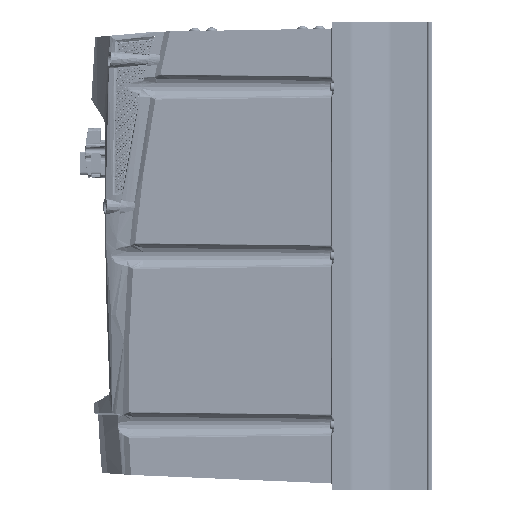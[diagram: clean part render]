
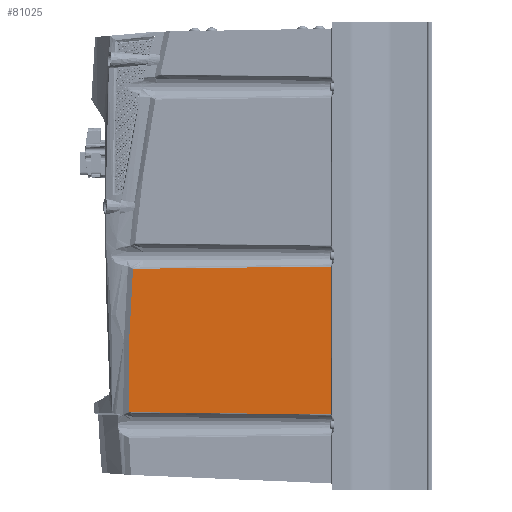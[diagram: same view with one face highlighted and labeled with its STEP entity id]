
A CAD part, left-side view. The second image highlights one B-rep face of the part: STEP entity #81025.
In plain terms, the highlighted planar face has unit normal (-1, 0.018, 0).
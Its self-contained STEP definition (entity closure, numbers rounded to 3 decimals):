
#337 = CARTESIAN_POINT ( 'NONE',  ( -109.903, 5.491, -8.103 ) ) ;
#6258 = VECTOR ( 'NONE', #131305, 1000. ) ;
#14144 = EDGE_CURVE ( 'NONE', #144629, #235877, #250894, .T. ) ;
#20419 = CARTESIAN_POINT ( 'NONE',  ( -107.186, 161.164, -120.073 ) ) ;
#22228 = CARTESIAN_POINT ( 'NONE',  ( -107.245, 157.776, -9.853 ) ) ;
#27746 = CARTESIAN_POINT ( 'NONE',  ( -107.186, 161.164, -120.073 ) ) ;
#51976 = CARTESIAN_POINT ( 'NONE',  ( -109.903, 5.491, -180. ) ) ;
#54624 = CARTESIAN_POINT ( 'NONE',  ( -107.245, 157.777, -9.86 ) ) ;
#56960 = CARTESIAN_POINT ( 'NONE',  ( -108.092, 109.27, -120.653 ) ) ;
#57622 = VERTEX_POINT ( 'NONE', #167030 ) ;
#59401 = ORIENTED_EDGE ( 'NONE', *, *, #168904, .T. ) ;
#74144 = CARTESIAN_POINT ( 'NONE',  ( -107.245, 157.776, -9.853 ) ) ;
#77877 = LINE ( 'NONE', #51976, #6258 ) ;
#81025 = ADVANCED_FACE ( 'NONE', ( #117544 ), #310635, .T. ) ;
#85806 = CARTESIAN_POINT ( 'NONE',  ( -107.245, 157.779, -9.874 ) ) ;
#88469 = DIRECTION ( 'NONE',  ( -1., 0.017, 0. ) ) ;
#90538 = B_SPLINE_CURVE_WITH_KNOTS ( 'NONE', 3,
 ( #74144, #54624, #127569, #103235 ),
 .UNSPECIFIED., .F., .F.,
 ( 4, 4 ),
 ( 0., 0. ),
 .UNSPECIFIED. ) ;
#103235 = CARTESIAN_POINT ( 'NONE',  ( -107.245, 157.779, -9.874 ) ) ;
#107135 = CARTESIAN_POINT ( 'NONE',  ( -108.131, 107.014, -9.321 ) ) ;
#111357 = CARTESIAN_POINT ( 'NONE',  ( -107.186, 161.161, -120.112 ) ) ;
#113834 = ORIENTED_EDGE ( 'NONE', *, *, #14144, .T. ) ;
#117544 = FACE_OUTER_BOUND ( 'NONE', #146659, .T. ) ;
#119243 = CARTESIAN_POINT ( 'NONE',  ( -107.186, 161.163, -120.099 ) ) ;
#125379 = B_SPLINE_CURVE_WITH_KNOTS ( 'NONE', 3,
 ( #155858, #56960, #253188, #303435 ),
 .UNSPECIFIED., .F., .F.,
 ( 4, 4 ),
 ( 0., 0.156 ),
 .UNSPECIFIED. ) ;
#127278 = AXIS2_PLACEMENT_3D ( 'NONE', #216520, #88469, #258793 ) ;
#127569 = CARTESIAN_POINT ( 'NONE',  ( -107.245, 157.778, -9.867 ) ) ;
#131305 = DIRECTION ( 'NONE',  ( 0., 0., 1. ) ) ;
#134662 = EDGE_CURVE ( 'NONE', #57622, #144629, #77877, .T. ) ;
#144629 = VERTEX_POINT ( 'NONE', #337 ) ;
#146659 = EDGE_LOOP ( 'NONE', ( #186009, #277564, #299568, #172548, #113834, #59401 ) ) ;
#147210 = B_SPLINE_CURVE_WITH_KNOTS ( 'NONE', 3,
 ( #20419, #158749, #119243, #218190 ),
 .UNSPECIFIED., .F., .F.,
 ( 4, 4 ),
 ( 0., 0. ),
 .UNSPECIFIED. ) ;
#153983 = CARTESIAN_POINT ( 'NONE',  ( -107.184, 161.306, -83.314 ) ) ;
#155858 = CARTESIAN_POINT ( 'NONE',  ( -107.186, 161.161, -120.112 ) ) ;
#158749 = CARTESIAN_POINT ( 'NONE',  ( -107.186, 161.164, -120.086 ) ) ;
#167030 = CARTESIAN_POINT ( 'NONE',  ( -109.903, 5.491, -121.897 ) ) ;
#168904 = EDGE_CURVE ( 'NONE', #235877, #214364, #90538, .T. ) ;
#172548 = ORIENTED_EDGE ( 'NONE', *, *, #134662, .T. ) ;
#180486 = CARTESIAN_POINT ( 'NONE',  ( -107.245, 157.779, -9.874 ) ) ;
#184768 = CARTESIAN_POINT ( 'NONE',  ( -107.221, 159.189, -28.201 ) ) ;
#186009 = ORIENTED_EDGE ( 'NONE', *, *, #187193, .T. ) ;
#187193 = EDGE_CURVE ( 'NONE', #214364, #314804, #310284, .T. ) ;
#202642 = CARTESIAN_POINT ( 'NONE',  ( -107.203, 160.177, -46.555 ) ) ;
#204475 = CARTESIAN_POINT ( 'NONE',  ( -109.903, 5.491, -8.103 ) ) ;
#214364 = VERTEX_POINT ( 'NONE', #180486 ) ;
#216520 = CARTESIAN_POINT ( 'NONE',  ( -110.001, -0.087, -180. ) ) ;
#218190 = CARTESIAN_POINT ( 'NONE',  ( -107.186, 161.161, -120.112 ) ) ;
#225995 = EDGE_CURVE ( 'NONE', #245692, #57622, #125379, .T. ) ;
#227228 = CARTESIAN_POINT ( 'NONE',  ( -109.017, 56.252, -8.749 ) ) ;
#235008 = CARTESIAN_POINT ( 'NONE',  ( -107.186, 161.164, -120.073 ) ) ;
#235877 = VERTEX_POINT ( 'NONE', #22228 ) ;
#245692 = VERTEX_POINT ( 'NONE', #111357 ) ;
#250894 = B_SPLINE_CURVE_WITH_KNOTS ( 'NONE', 3,
 ( #204475, #227228, #107135, #253152 ),
 .UNSPECIFIED., .F., .F.,
 ( 4, 4 ),
 ( 0., 0.152 ),
 .UNSPECIFIED. ) ;
#253152 = CARTESIAN_POINT ( 'NONE',  ( -107.245, 157.776, -9.853 ) ) ;
#253188 = CARTESIAN_POINT ( 'NONE',  ( -108.998, 57.38, -121.237 ) ) ;
#258793 = DIRECTION ( 'NONE',  ( 0., 0., 1. ) ) ;
#277564 = ORIENTED_EDGE ( 'NONE', *, *, #303166, .T. ) ;
#283680 = CARTESIAN_POINT ( 'NONE',  ( -107.181, 161.447, -101.693 ) ) ;
#299568 = ORIENTED_EDGE ( 'NONE', *, *, #225995, .T. ) ;
#303166 = EDGE_CURVE ( 'NONE', #314804, #245692, #147210, .T. ) ;
#303435 = CARTESIAN_POINT ( 'NONE',  ( -109.903, 5.491, -121.897 ) ) ;
#310284 = B_SPLINE_CURVE_WITH_KNOTS ( 'NONE', 3,
 ( #85806, #184768, #202642, #153983, #283680, #235008 ),
 .UNSPECIFIED., .F., .F.,
 ( 4, 2, 4 ),
 ( 0., 0.5, 1. ),
 .UNSPECIFIED. ) ;
#310635 = PLANE ( 'NONE',  #127278 ) ;
#314804 = VERTEX_POINT ( 'NONE', #27746 ) ;
